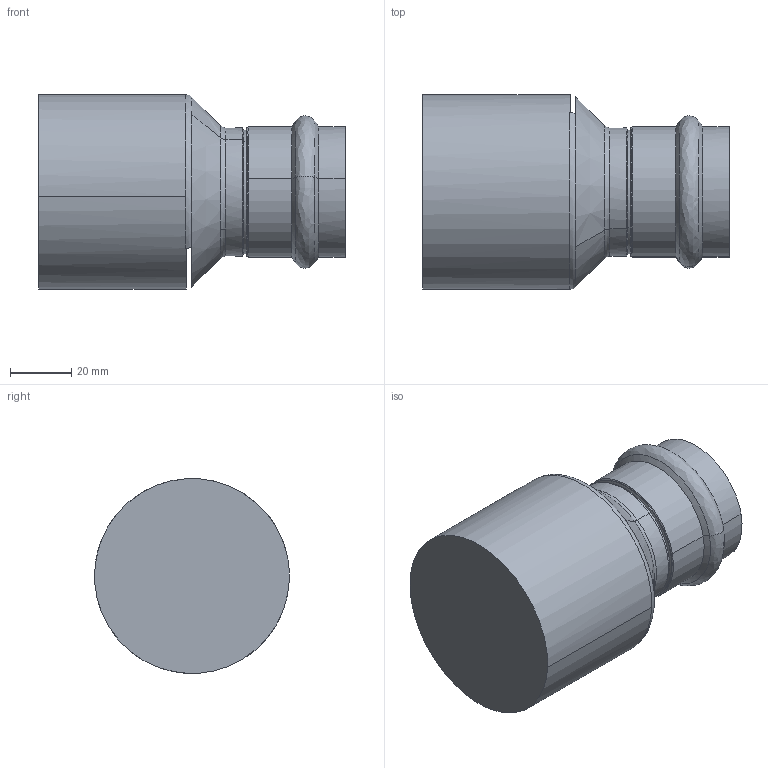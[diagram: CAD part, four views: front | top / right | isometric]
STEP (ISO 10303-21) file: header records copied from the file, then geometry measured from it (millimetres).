
FILE_DESCRIPTION(('STEP AP214'),'1');
FILE_NAME('pim0004362.stp','2015-04-30T10:56:59',('Cad-Pim'),('TransMagic, Inc.'),'TMR11sp0','TransMagic R11',' ');
FILE_SCHEMA(('AUTOMOTIVE_DESIGN'));
Length unit declared in the file: millimetre
Products named in the file (1): pim0004362
Bounding box: 100 x 63.44 x 63.44 mm (x, y, z)
Volume: 204089.3 mm3; surface area: 26705.4 mm2
Topology: 1 solids, 1 shells, 35 faces, 96 edges, 58 vertices
Faces by surface type: bspline 19, cylinder 8, cone 8
Entity records: 2026 total; most frequent: CARTESIAN_POINT 1049, ORIENTED_EDGE 180, DIRECTION 96, EDGE_CURVE 90, VERTEX_POINT 58, AXIS2_PLACEMENT_3D 39, STYLED_ITEM 36, PRESENTATION_STYLE_ASSIGNMENT 36
